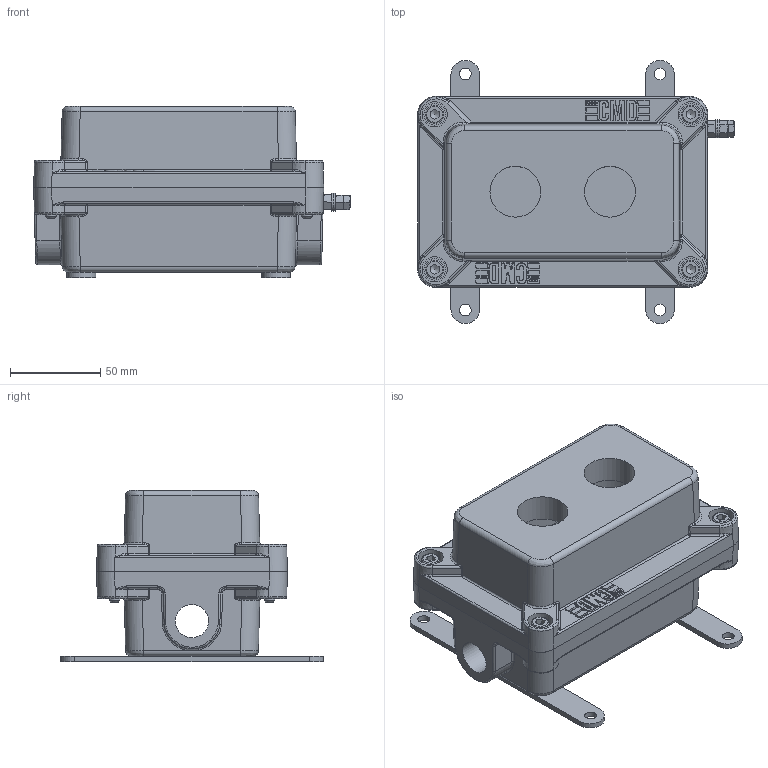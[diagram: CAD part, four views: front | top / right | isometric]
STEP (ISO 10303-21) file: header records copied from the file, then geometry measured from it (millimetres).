
FILE_DESCRIPTION(('STEP AP214'), '1');
FILE_NAME('ﾑﾌﾄ 640000 414 000 _ ﾏﾊﾂ ﾌﾊ ﾒ韵-2 Exd', '', ('UNSPECIFIED'), ('UNSPECIFIED'), 'ASCON STEP Converter 1.3', 'ASCON Math Kernel', '');
FILE_SCHEMA(('AUTOMOTIVE_DESIGN { 1 0 10303 214 3 1 1}'));
Length unit declared in the file: millimetre
Products named in the file (17): ﾑﾌﾄ 640000 414 000 ﾑﾁ; ﾑﾌﾄ 640000 414 001; ﾑﾌﾄ 640000 414 002; ﾑﾌﾄ 468626 390 008
Assembly tree (33 placements, depth 2):
  ﾑﾌﾄ 640000 414 000 ﾑﾁ
    ﾑﾌﾄ 640000 414 001
    ﾑﾌﾄ 640000 414 002
    ﾑﾌﾄ 468626 390 008  x2
    (unnamed)
    (unnamed)
    (unnamed)
    (unnamed)
    (unnamed)
    (unnamed)  x2
    (unnamed)  x2
    (unnamed)  x4
    (unnamed)  x2
    (unnamed)  x2
    (unnamed)  x4
    (unnamed)  x4
    (unnamed)  x4
Bounding box: 175.71 x 146 x 95 mm (x, y, z)
Volume: 537029.8 mm3; surface area: 157589.1 mm2
Topology: 33 solids, 33 shells, 1541 faces, 3982 edges, 2518 vertices
Faces by surface type: plane 684, bspline 426, cylinder 327, torus 53, cone 49, sphere 2
Full cylindrical faces by diameter (mm): 3.242 x2, 4 x2, 4.134 x7, 4.5 x4, 4.917 x4, 5 x5, 5.2 x4, 5.5 x2, 6 x4, 6.5 x8, 6.6 x4, 8 x2, 9 x4, 9.2 x4, 10 x6, 12 x4, 14 x4, 18.376 x2, 28.2 x2
Entity records: 86817 total; most frequent: CARTESIAN_POINT 43842, ORIENTED_EDGE 7036, DIRECTION 4915, EDGE_CURVE 3518, VERTEX_POINT 2278, LINE 1939, VECTOR 1939, EDGE_LOOP 1550
